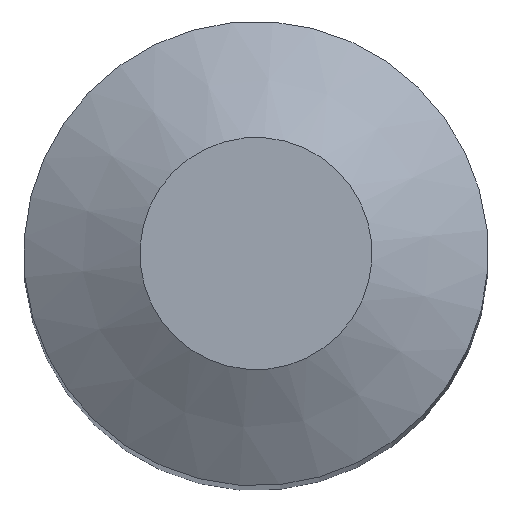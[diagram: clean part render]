
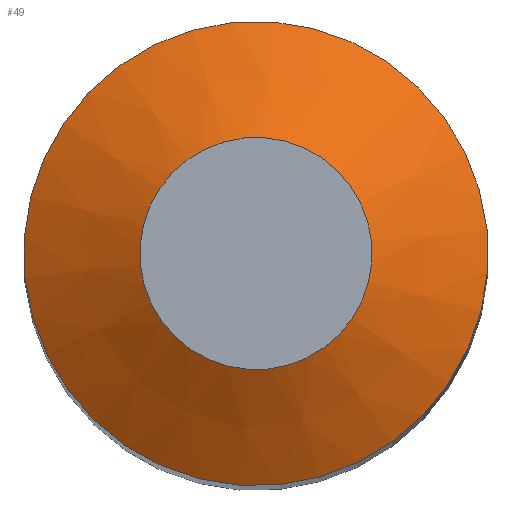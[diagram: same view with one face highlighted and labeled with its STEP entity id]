
A CAD part, top view. The second image highlights one B-rep face of the part: STEP entity #49.
In plain terms, the highlighted conical face has half-angle 60 degrees and reference radius 3 mm.
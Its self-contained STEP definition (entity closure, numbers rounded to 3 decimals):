
#49=ADVANCED_FACE('',(#66,#67),#57,.T.);
#57=CONICAL_SURFACE('',#151,3.,60.);
#66=FACE_BOUND('',#78,.T.);
#67=FACE_BOUND('',#79,.T.);
#78=EDGE_LOOP('',(#92));
#79=EDGE_LOOP('',(#93));
#92=ORIENTED_EDGE('',*,*,#112,.F.);
#93=ORIENTED_EDGE('',*,*,#111,.T.);
#103=VERTEX_POINT('',#207);
#104=VERTEX_POINT('',#210);
#111=EDGE_CURVE('',#103,#103,#118,.T.);
#112=EDGE_CURVE('',#104,#104,#119,.T.);
#118=CIRCLE('',#148,3.);
#119=CIRCLE('',#150,1.5);
#148=AXIS2_PLACEMENT_3D('',#206,#173,#174);
#150=AXIS2_PLACEMENT_3D('',#209,#177,#178);
#151=AXIS2_PLACEMENT_3D('',#211,#179,#180);
#173=DIRECTION('',(0.,0.,1.));
#174=DIRECTION('',(0.696,0.718,0.));
#177=DIRECTION('',(0.,0.,1.));
#178=DIRECTION('',(0.696,0.718,0.));
#179=DIRECTION('',(0.,0.,-1.));
#180=DIRECTION('',(-0.696,-0.718,0.));
#206=CARTESIAN_POINT('',(0.,0.,-0.866));
#207=CARTESIAN_POINT('',(2.089,2.153,-0.866));
#209=CARTESIAN_POINT('',(0.,0.,0.));
#210=CARTESIAN_POINT('',(1.045,1.076,0.));
#211=CARTESIAN_POINT('',(0.,0.,-0.866));
